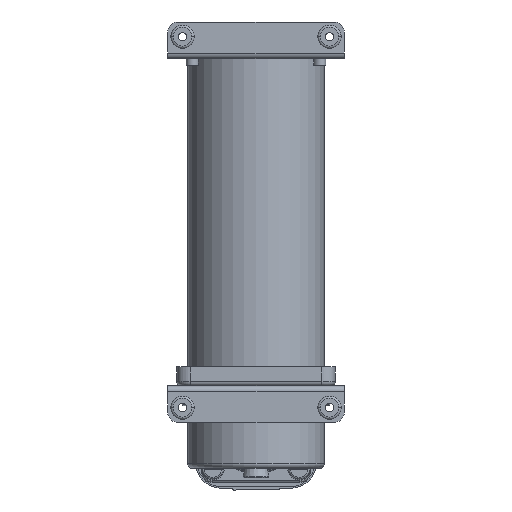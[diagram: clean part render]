
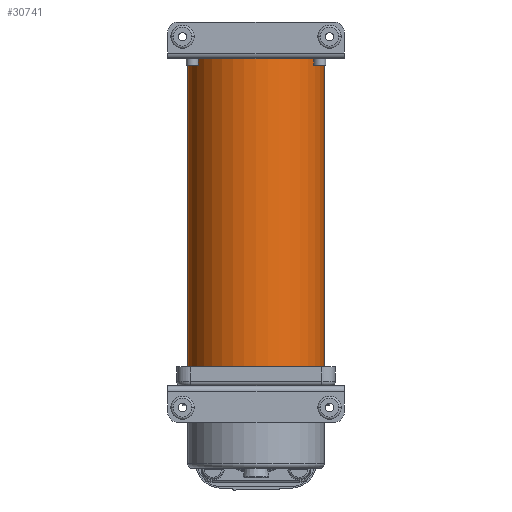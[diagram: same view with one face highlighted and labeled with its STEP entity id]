
A CAD part, front view. The second image highlights one B-rep face of the part: STEP entity #30741.
In plain terms, the highlighted cylindrical face has radius 38.925 mm (diameter 77.851 mm), a partial arc.
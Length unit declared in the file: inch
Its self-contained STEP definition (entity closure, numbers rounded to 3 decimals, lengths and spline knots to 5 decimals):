
#616 = DIRECTION ( 'NONE',  ( 0., 0., -1. ) ) ;
#7563 = CARTESIAN_POINT ( 'NONE',  ( 0., 0., 7.275 ) ) ;
#8762 = EDGE_LOOP ( 'NONE', ( #39367, #19010, #43357, #44423 ) ) ;
#10483 = AXIS2_PLACEMENT_3D ( 'NONE', #41987, #19344, #45770 ) ;
#10610 = VECTOR ( 'NONE', #616, 39.37008 ) ;
#10933 = AXIS2_PLACEMENT_3D ( 'NONE', #7563, #34046, #11345 ) ;
#10956 = FACE_OUTER_BOUND ( 'NONE', #8762, .T. ) ;
#11345 = DIRECTION ( 'NONE',  ( 1., 0., 0. ) ) ;
#13701 = CARTESIAN_POINT ( 'NONE',  ( -1.5325, 0., 7.275 ) ) ;
#17575 = VERTEX_POINT ( 'NONE', #48078 ) ;
#18468 = CARTESIAN_POINT ( 'NONE',  ( 0., 0., 7.275 ) ) ;
#19010 = ORIENTED_EDGE ( 'NONE', *, *, #24539, .F. ) ;
#19138 = VERTEX_POINT ( 'NONE', #21352 ) ;
#19344 = DIRECTION ( 'NONE',  ( 0., 0., 1. ) ) ;
#20504 = CARTESIAN_POINT ( 'NONE',  ( 1.5325, 0., 0.275 ) ) ;
#21352 = CARTESIAN_POINT ( 'NONE',  ( -1.5325, 0., 0.275 ) ) ;
#21733 = EDGE_CURVE ( 'NONE', #19138, #25816, #38764, .T. ) ;
#22682 = LINE ( 'NONE', #13701, #41612 ) ;
#23296 = CARTESIAN_POINT ( 'NONE',  ( 1.5325, 0., 7.275 ) ) ;
#24539 = EDGE_CURVE ( 'NONE', #17575, #45840, #31982, .T. ) ;
#25816 = VERTEX_POINT ( 'NONE', #20504 ) ;
#30741 = ADVANCED_FACE ( 'NONE', ( #10956 ), #48779, .T. ) ;
#31149 = CARTESIAN_POINT ( 'NONE',  ( 1.5325, 0., 7.275 ) ) ;
#31982 = CIRCLE ( 'NONE', #10933, 1.5325 ) ;
#32000 = AXIS2_PLACEMENT_3D ( 'NONE', #18468, #48474, #44887 ) ;
#34046 = DIRECTION ( 'NONE',  ( 0., 0., 1. ) ) ;
#37515 = EDGE_CURVE ( 'NONE', #17575, #19138, #22682, .T. ) ;
#38764 = CIRCLE ( 'NONE', #10483, 1.5325 ) ;
#39367 = ORIENTED_EDGE ( 'NONE', *, *, #43917, .F. ) ;
#40833 = LINE ( 'NONE', #23296, #10610 ) ;
#41612 = VECTOR ( 'NONE', #47544, 39.37008 ) ;
#41987 = CARTESIAN_POINT ( 'NONE',  ( 0., 0., 0.275 ) ) ;
#43357 = ORIENTED_EDGE ( 'NONE', *, *, #37515, .T. ) ;
#43917 = EDGE_CURVE ( 'NONE', #45840, #25816, #40833, .T. ) ;
#44423 = ORIENTED_EDGE ( 'NONE', *, *, #21733, .T. ) ;
#44887 = DIRECTION ( 'NONE',  ( -1., 0., 0. ) ) ;
#45770 = DIRECTION ( 'NONE',  ( 1., 0., 0. ) ) ;
#45840 = VERTEX_POINT ( 'NONE', #31149 ) ;
#47544 = DIRECTION ( 'NONE',  ( 0., 0., -1. ) ) ;
#48078 = CARTESIAN_POINT ( 'NONE',  ( -1.5325, 0., 7.275 ) ) ;
#48474 = DIRECTION ( 'NONE',  ( 0., 0., -1. ) ) ;
#48779 = CYLINDRICAL_SURFACE ( 'NONE', #32000, 1.5325 ) ;
